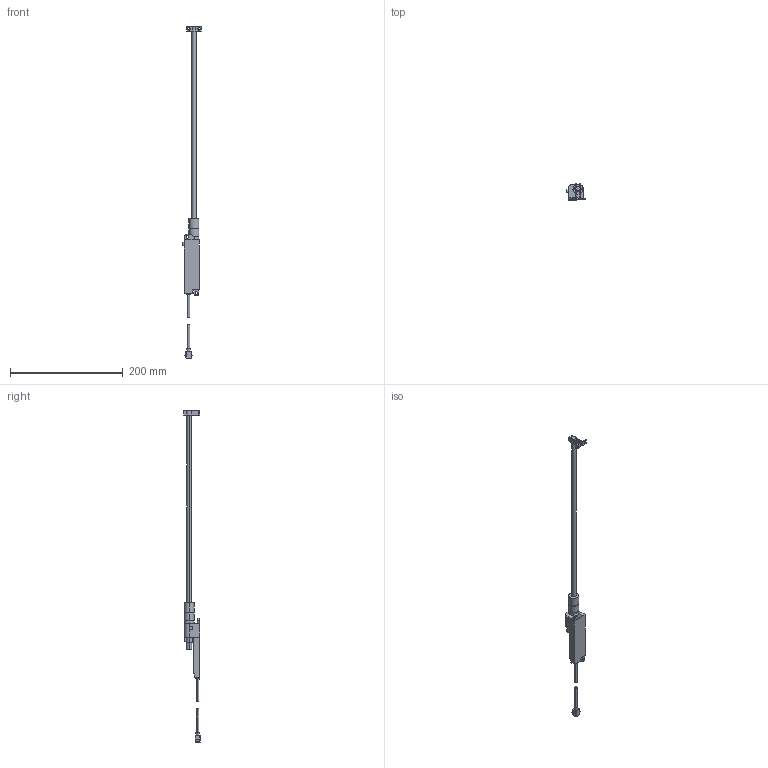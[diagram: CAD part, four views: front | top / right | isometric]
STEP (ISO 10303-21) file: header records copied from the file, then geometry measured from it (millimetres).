
FILE_DESCRIPTION (( 'STEP AP203' ), '1' );
FILE_NAME ('ER-VS01(+ER-VAB032).STEP', '2005-10-26T06:10:03', ( '' ), ( '' ), 'SwSTEP 2.0', 'SolidWorks 2004073', '' );
FILE_SCHEMA (( 'CONFIG_CONTROL_DESIGN' ));
Length unit declared in the file: millimetre
Products named in the file (3): ER-VS01(+ER-VAB032); ER-VS01_蹬怮椔; ER-VAB032_蹬怮椔
Assembly tree (2 placements, depth 2):
  ER-VS01(+ER-VAB032)
    ER-VAB032_蹬怮椔
    ER-VS01_蹬怮椔
Bounding box: 33 x 28.9 x 589.7 mm (x, y, z)
Volume: 65854 mm3; surface area: 32368.8 mm2
Topology: 4 solids, 4 shells, 254 faces, 669 edges, 443 vertices
Faces by surface type: cylinder 137, plane 117
Entity records: 9180 total; most frequent: CARTESIAN_POINT 2559, ORIENTED_EDGE 1338, DIRECTION 1197, EDGE_CURVE 669, VERTEX_POINT 443, AXIS2_PLACEMENT_3D 401, LINE 395, VECTOR 395
